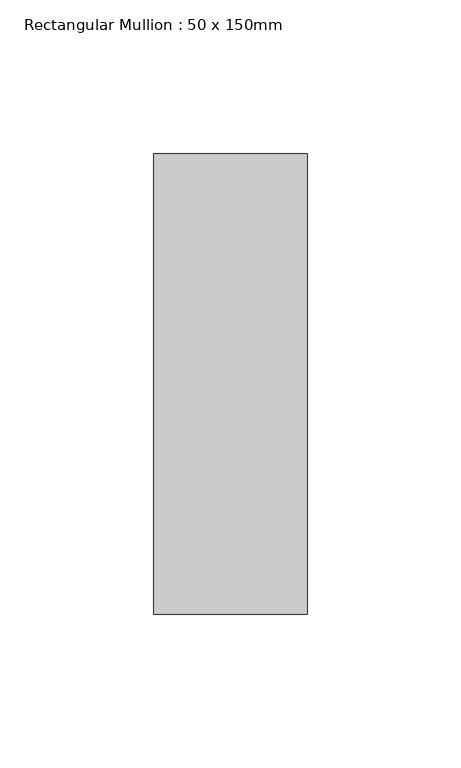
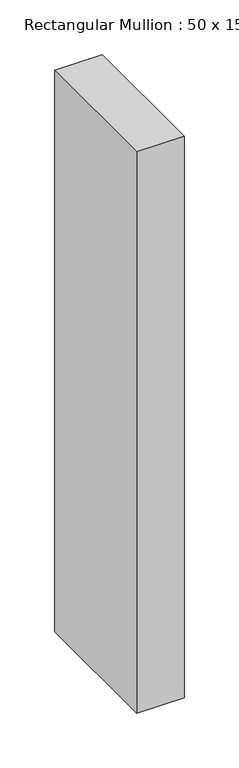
"""IFC4 building model written with IfcOpenShell, lengths in millimetres: member geometry, Rectangular Mullion : 50 x 150mm."""

from ifc_helpers import new_model, si_unit, frame, origin, place, context, project, spatial, polyline, outline, extrude, source, transform, mapped, element, save


def rectangular_mullion_50_x_150mm_343c8db0(model_context):
    return source(origin(), model_context, "Body", "SweptSolid", [
        extrude(outline(polyline([(0.0, 75.0), (0.0, -75.0), (-50.0, -75.0), (-50.0, 75.0), (0.0, 75.0)])), frame((0.0, 0.0, -626.5482858), z_axis=(0.0, 0.0, 1.0), x_axis=(1.0, 0.0, 0.0)), (0.0, 0.0, 1.0), 626.5482858),
    ])


if __name__ == "__main__":
    model = new_model("IFC4")
    model_context = context("Model", 3, world=origin())
    ifc_project = project(units=[si_unit("LENGTHUNIT", "METRE", prefix="MILLI")], contexts=[model_context])
    site = spatial("IfcSite", under=ifc_project)
    building = spatial("IfcBuilding", under=site)
    placement = place(None, origin())
    rectangular_mullion_50_x_150mm_shape = rectangular_mullion_50_x_150mm_343c8db0(model_context)
    element("IfcMember", 1, ObjectType="Rectangular Mullion : 50 x 150mm", at=placement, inside=building, context=model_context, shape_type="MappedRepresentation", body=[
        mapped(rectangular_mullion_50_x_150mm_shape, transform((0.0, 0.0, 0.0), x_axis=(1.0, 0.0, 0.0), y_axis=(0.0, 1.0, 0.0), z_axis=(0.0, 0.0, 1.0))),
    ])
    save(model, "model.ifc")
